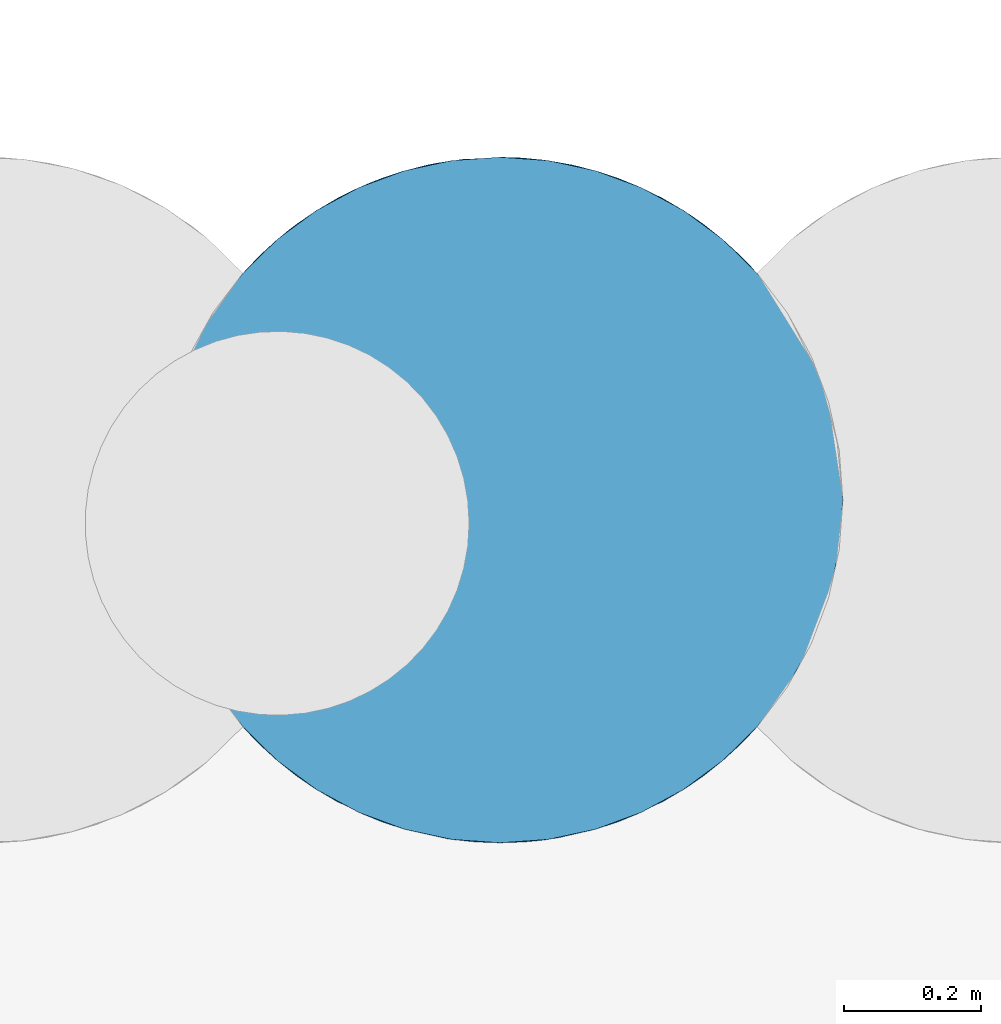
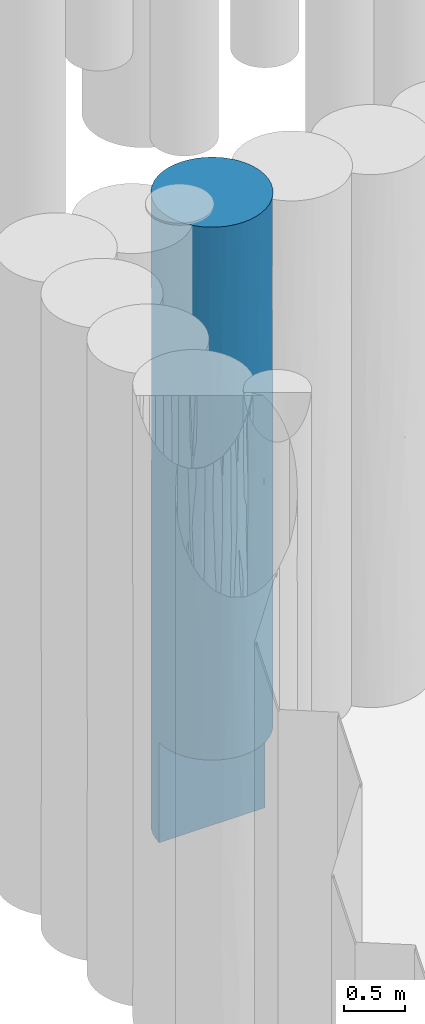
# One storey, part 81 of 104: 1 pile.
"""IFC2X3 building model written with IfcOpenShell, lengths in millimetres."""

from ifc_helpers import new_model, entity, si_unit, converted_unit, derived_unit, direction, frame, origin, place, context, subcontext, project, spatial, faceted_brep, source, transform, mapped, material, element, save


model = new_model("IFC2X3")

# Units and contexts
model_context = context("Model", 3, precision=0.01, world=origin(), true_north=direction((6.12303176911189e-17, 1.0)))
body_context = subcontext(model_context, "Body", "Model", "MODEL_VIEW")
ifc_project = project(units=[si_unit("LENGTHUNIT", "METRE", prefix="MILLI"), si_unit("AREAUNIT", "SQUARE_METRE", prefix="MILLI"), si_unit("VOLUMEUNIT", "CUBIC_METRE"), converted_unit("PLANEANGLEUNIT", "DEGREE", entity("IfcRatioMeasure", 0.0174532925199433), si_unit("PLANEANGLEUNIT", "RADIAN"), dimensions=[0, 0, 0, 0, 0, 0, 0]), si_unit("MASSUNIT", "GRAM", prefix="KILO"), derived_unit("MASSDENSITYUNIT", [(si_unit("MASSUNIT", "GRAM", prefix="KILO"), 1), (si_unit("LENGTHUNIT", "METRE"), -3)]), derived_unit("MOMENTOFINERTIAUNIT", [(si_unit("LENGTHUNIT", "METRE"), 4)]), si_unit("TIMEUNIT", "SECOND"), si_unit("FREQUENCYUNIT", "HERTZ"), si_unit("THERMODYNAMICTEMPERATUREUNIT", "DEGREE_CELSIUS"), derived_unit("THERMALTRANSMITTANCEUNIT", [(si_unit("MASSUNIT", "GRAM", prefix="KILO"), 1), (si_unit("THERMODYNAMICTEMPERATUREUNIT", "KELVIN"), -1), (si_unit("TIMEUNIT", "SECOND"), -3)]), derived_unit("VOLUMETRICFLOWRATEUNIT", [(si_unit("LENGTHUNIT", "METRE"), 3), (si_unit("TIMEUNIT", "SECOND"), -1)]), si_unit("ELECTRICCURRENTUNIT", "AMPERE"), si_unit("ELECTRICVOLTAGEUNIT", "VOLT"), si_unit("POWERUNIT", "WATT"), si_unit("FORCEUNIT", "NEWTON", prefix="KILO"), si_unit("ILLUMINANCEUNIT", "LUX"), si_unit("LUMINOUSFLUXUNIT", "LUMEN"), si_unit("LUMINOUSINTENSITYUNIT", "CANDELA"), derived_unit("USERDEFINED", [(si_unit("MASSUNIT", "GRAM", prefix="KILO"), -1), (si_unit("LENGTHUNIT", "METRE"), -2), (si_unit("TIMEUNIT", "SECOND"), 3), (si_unit("LUMINOUSFLUXUNIT", "LUMEN"), 1)]), derived_unit("LINEARVELOCITYUNIT", [(si_unit("LENGTHUNIT", "METRE"), 1), (si_unit("TIMEUNIT", "SECOND"), -1)]), si_unit("PRESSUREUNIT", "PASCAL"), derived_unit("USERDEFINED", [(si_unit("LENGTHUNIT", "METRE"), -2), (si_unit("MASSUNIT", "GRAM", prefix="KILO"), 1), (si_unit("TIMEUNIT", "SECOND"), -2)]), derived_unit("LINEARFORCEUNIT", [(si_unit("MASSUNIT", "GRAM", prefix="KILO"), 1), (si_unit("LENGTHUNIT", "METRE"), 1), (si_unit("TIMEUNIT", "SECOND"), -2), (si_unit("LENGTHUNIT", "METRE"), -1)]), derived_unit("PLANARFORCEUNIT", [(si_unit("MASSUNIT", "GRAM", prefix="KILO"), 1), (si_unit("LENGTHUNIT", "METRE"), 1), (si_unit("TIMEUNIT", "SECOND"), -2), (si_unit("LENGTHUNIT", "METRE"), -2)])], contexts=[model_context])

# Site, building, storey
site_placement = place(None, origin())
site = spatial("IfcSite", under=ifc_project, at=site_placement, Name="Theater aan de Parade", CompositionType="ELEMENT")
building_placement = place(site_placement, origin())
building = spatial("IfcBuilding", under=site, at=building_placement, Name="Theater aan de Parade", CompositionType="ELEMENT")
storey_placement = place(building_placement, frame((0.0, 0.0, -5520.0)))
storey = spatial("IfcBuildingStorey", under=building, at=storey_placement, Name="-2 kelder", CompositionType="ELEMENT", Elevation=-5520.0)

# Pile
ifc_material = material(Name="00_PBT_MAT_grout")
shared_shape = source(origin(), body_context, "Body", "Brep", [
    faceted_brep([(876.579981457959, 832.321622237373, 0.0), (920.315634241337, 774.859354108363, 0.0), (955.309868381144, 711.69778351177, 0.0), (980.842385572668, 644.151241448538, 0.0), (996.379070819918, 573.629935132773, 0.0), (1001.59527223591, 501.595272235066, 0.0), (1.5952722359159, 501.59527223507, 0.0), (6.81137998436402, 573.629291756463, 0.0), (22.349299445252, 644.155075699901, 0.0), (47.8844394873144, 711.705910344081, 0.0), (82.8830970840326, 774.871898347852, 0.0), (126.625846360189, 832.344511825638, 0.0), (176.945912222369, 881.862011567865, 0.0), (233.75028262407, 923.802640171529, 0.0), (295.894734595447, 957.322481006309, 0.0), (362.140178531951, 981.753867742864, 0.0), (431.165976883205, 996.610134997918, 0.0), (501.596191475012, 1001.59527223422, 0.0), (572.026924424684, 996.609799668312, 0.0), (641.054213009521, 981.752750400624, 0.0), (707.301927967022, 957.31971944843, 0.0), (769.44912927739, 923.797014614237, 0.0), (826.255002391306, 881.853157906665, 0.0), (505.767945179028, 1001.57786073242, 5382.91369215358), (606.803152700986, 990.401268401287, 5318.51992689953), (536.899669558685, 1000.3473143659, 4489.82006157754), (738.968042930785, 941.656822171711, 4874.79178989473), (825.621930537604, 882.392757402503, 5096.92066503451), (852.300933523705, 857.973637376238, 4162.67275115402), (798.593435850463, 903.829147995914, 886.300630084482), (899.493836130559, 804.376930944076, 1281.2877992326), (969.297123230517, 678.386048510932, 1281.2961646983), (1001.59527223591, 501.595272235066, 1000.0), (996.379070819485, 573.629935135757, 6320.0), (1001.59527223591, 501.59527223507, 6320.0), (1001.59527223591, 501.595272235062, 5539.2311470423), (1001.59527223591, 501.59527223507, 4758.46227402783), (994.752446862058, 584.033134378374, 1549.23112811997), (1001.59527223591, 501.595272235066, 2098.46227402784), (1001.59527223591, 501.595272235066, 1780.76885295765), (565.550315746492, 997.488156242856, 3449.19257381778), (529.169815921, 1000.83433775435, 2672.94077529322), (449.743121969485, 998.899358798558, 3572.95863106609), (431.16597719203, 996.610135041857, 6320.0), (396.390513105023, 990.401940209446, 5019.99634000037), (362.14017904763, 981.753867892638, 6320.0), (536.899669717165, 1000.34731435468, 886.293567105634), (396.390512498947, 990.401940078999, 1347.03118009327), (674.609910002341, 970.707130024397, 3160.0), (734.717654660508, 943.92315380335, 3911.20658875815), (778.79340587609, 917.721688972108, 2912.21735107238), (899.493835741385, 804.376931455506, 5166.9159928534), (674.609910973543, 970.707129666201, 1347.04994799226), (176.945912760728, 881.862012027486, 6320.0), (233.750283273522, 923.802640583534, 6320.0), (204.606817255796, 903.836316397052, 5407.98119204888), (264.230075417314, 941.660907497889, 1001.48462008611), (306.205735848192, 961.837522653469, 2005.68165294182), (867.648950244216, 842.18990639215, 2569.0136487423), (798.593435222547, 903.829148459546, 1830.20318346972), (648.053090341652, 979.664417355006, 4342.8001010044), (40.3510914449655, 694.607721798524, 5507.02367642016), (33.8957115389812, 678.392107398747, 4691.74032688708), (13.3053828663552, 609.173076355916, 5404.28278265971), (914.042137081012, 784.239188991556, 3465.35564142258), (938.954431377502, 743.911111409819, 2426.27080083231), (969.297122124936, 678.386051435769, 4353.80283951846), (969.297122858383, 678.386049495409, 5364.93969973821), (991.945435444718, 599.353737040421, 4859.37128120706), (1.5952722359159, 501.59527223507, 6320.0), (6.81137998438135, 573.629291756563, 6320.0), (876.595272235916, 832.314186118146, 6320.0), (707.30192777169, 957.319719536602, 6320.0), (769.449129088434, 923.797014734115, 6320.0), (955.309868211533, 711.697783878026, 6320.0), (980.842385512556, 644.151241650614, 6320.0), (920.315633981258, 774.859354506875, 6320.0), (192.454499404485, 894.573620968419, 3118.25983968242), (103.705863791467, 804.388962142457, 3683.83727830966), (170.062999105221, 875.876385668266, 4385.93371237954), (615.750115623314, 988.389552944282, 2412.80574800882), (826.255002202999, 881.853158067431, 6320.0), (9.5425294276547, 590.387717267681, 1549.23114545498), (19.1756528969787, 633.015631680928, 2647.69343743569), (64.2419118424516, 743.921577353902, 1886.80412871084), (33.8957114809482, 678.392107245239, 1031.06480452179), (572.026924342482, 996.609799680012, 6320.0), (641.054212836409, 981.752750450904, 6320.0), (150.899907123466, 857.983769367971, 1001.49914637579), (536.899669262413, 1000.34731438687, 1830.17993802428), (911.630675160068, 787.726305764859, 4326.2243314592), (710.611247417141, 955.811434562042, 2253.52497223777), (125.970359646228, 831.604249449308, 1931.73263109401), (90.395268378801, 786.050113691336, 2739.57598498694), (994.456145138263, 585.786482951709, 3851.2604916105), (126.605366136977, 832.325631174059, 6320.0), (1.5952722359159, 501.59527223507, 1000.0), (81.0732233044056, 772.07855519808, 967.239877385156), (501.596191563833, 1001.59527223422, 6320.0), (204.60681639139, 903.836315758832, 1830.17932841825), (103.705863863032, 804.388962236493, 5022.82360748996), (987.128071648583, 621.00172388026, 2647.69338846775), (1001.59527223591, 501.595272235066, 3196.9245480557), (1001.59527223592, 501.595272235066, 2561.53770591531), (264.230076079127, 941.660907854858, 4689.96526702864), (281.302649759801, 950.450661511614, 5502.16992542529), (22.3492994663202, 644.155075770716, 6320.0), (9.62160997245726, 590.82483930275, 4578.19709384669), (1.5952722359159, 501.59527223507, 4758.45410358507), (46.3450915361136, 708.349408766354, 3415.89896222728), (82.8830972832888, 774.871898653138, 6320.0), (295.894735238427, 957.322481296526, 6320.0), (47.8844395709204, 711.705910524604, 6320.0), (360.659098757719, 981.321230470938, 4094.94716932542), (12.0310218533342, 603.216356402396, 3655.04011546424), (409.469337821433, 993.03480280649, 2413.70045088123), (1.5952722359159, 501.59527223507, 5539.23543392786), (1.59527223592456, 501.59527223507, 2098.47265322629), (1.5952722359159, 501.59527223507, 3196.90820717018), (1.5952722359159, 501.59527223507, 1780.76456607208), (328.585659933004, 970.708983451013, 3160.0), (971.530380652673, 672.361175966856, 3430.41213963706), (1001.59527223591, 501.595272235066, 4123.07541183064), (103.705864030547, 198.801582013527, 1912.28195474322), (82.8830972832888, 228.318645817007, 1000.0), (126.605366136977, 170.864913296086, 1000.0), (11.952249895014, 400.35441747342, 1904.7576676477), (9.26665931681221, 414.345418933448, 2795.48116401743), (295.894735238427, 45.8680631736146, 1000.0), (362.140179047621, 21.4366765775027, 1000.0), (328.585661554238, 32.481560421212, 2389.4404015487), (362.140179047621, 21.4366765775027, 6320.0), (466.292978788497, 2.84308118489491, 5378.67247013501), (431.165977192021, 6.58040942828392, 6320.0), (585.680934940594, 8.71638109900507, 3096.59253510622), (536.899670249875, 2.84323015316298, 2089.86406556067), (674.609911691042, 32.4834150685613, 2389.44616894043), (47.8844395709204, 291.484633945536, 1000.0), (204.606817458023, 99.3542279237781, 1910.82197268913), (176.945912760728, 121.328532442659, 1000.0), (996.379070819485, 429.560609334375, 6320.0), (996.379070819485, 429.560609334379, 1000.0), (150.899907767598, 145.206774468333, 2627.24285140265), (8.92165890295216, 416.315082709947, 5148.84671875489), (6.81137998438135, 429.561252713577, 6320.0), (798.593436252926, 99.3613967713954, 5409.16103987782), (774.63065400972, 82.7257456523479, 4513.56607829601), (852.300934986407, 145.216908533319, 4692.73185603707), (466.292978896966, 2.84308117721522, 3023.45462893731), (428.669383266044, 6.9420455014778, 2088.9298529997), (988.649679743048, 388.555437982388, 3393.35222772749), (994.269521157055, 416.318754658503, 2171.15327926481), (82.255094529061, 229.283290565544, 4861.06017695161), (126.605366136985, 170.864913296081, 6320.0), (82.8830972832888, 228.318645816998, 6320.0), (233.750283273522, 79.3879038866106, 1000.0), (14.5430320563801, 388.54610003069, 3926.55937207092), (22.3492994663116, 359.035468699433, 1000.0), (501.596191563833, 1.5952722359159, 1000.0), (955.309868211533, 291.492760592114, 6320.0), (991.238555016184, 400.355677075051, 5415.25030213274), (980.842385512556, 359.039302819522, 6320.0), (6.81137998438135, 429.561252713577, 1000.0), (33.8957116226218, 324.798436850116, 5046.83991630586), (64.2419122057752, 259.268966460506, 3911.00024643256), (22.3492994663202, 359.035468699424, 6320.0), (899.493836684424, 198.81361425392, 5407.704178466), (826.255002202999, 121.337386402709, 1000.0), (852.300935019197, 145.216908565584, 2544.64784724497), (772.434150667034, 81.3021579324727, 2058.96270123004), (47.8844395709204, 291.484633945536, 6320.0), (295.894735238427, 45.8680631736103, 6320.0), (230.76339103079, 81.2976489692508, 5261.05887237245), (328.585661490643, 32.4815604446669, 4930.5595985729), (150.899907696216, 145.206774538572, 4775.31033826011), (176.945912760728, 121.328532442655, 6320.0), (969.297123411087, 324.804496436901, 2273.11211037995), (920.941233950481, 229.292197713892, 2458.90250760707), (955.309868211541, 291.492760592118, 1000.0), (233.750283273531, 79.3879038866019, 6320.0), (572.026924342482, 6.58074479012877, 1000.0), (876.595272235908, 170.87635835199, 1000.0), (969.297123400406, 324.804496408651, 4807.65108384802), (536.899670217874, 2.84323015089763, 4623.76614534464), (424.607769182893, 7.5579008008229, 4390.31164837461), (132.743177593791, 164.033230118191, 3701.27659464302), (641.054212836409, 21.4377940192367, 1000.0), (707.30192777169, 45.8708249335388, 1000.0), (362.747706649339, 21.2606456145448, 3359.53368305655), (639.67292230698, 21.0387588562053, 4013.21651259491), (738.968043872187, 61.5337228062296, 3660.0), (559.822729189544, 4.99728265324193, 5462.4569585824), (769.449129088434, 79.3935297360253, 1000.0), (920.315633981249, 228.331189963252, 1000.0), (264.230076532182, 61.5296363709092, 3660.0), (980.842385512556, 359.039302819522, 1000.0), (33.8957116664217, 324.798436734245, 2512.31991229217), (938.954432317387, 259.279434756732, 3408.92084500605), (431.16597719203, 6.58040942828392, 1000.0), (993.924896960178, 414.351128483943, 4524.56175537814), (228.571947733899, 82.7178865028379, 2806.41036580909), (501.596191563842, 1.5952722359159, 6320.0), (572.026924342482, 6.58074479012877, 6320.0), (641.054212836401, 21.4377940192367, 6320.0), (707.30192777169, 45.8708249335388, 6320.0), (674.609911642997, 32.4834150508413, 5005.81261726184), (826.255002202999, 121.337386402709, 6320.0), (769.449129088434, 79.3935297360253, 6320.0), (921.65753888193, 230.398494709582, 4422.83230954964), (870.455786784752, 164.042430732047, 3618.68985171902), (876.595272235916, 170.876358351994, 6320.0), (920.315633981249, 228.331189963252, 6320.0), (81.5385124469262, 230.389965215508, 2897.19133344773)], [[[0, 1, 2, 3, 4, 5, 6, 7, 8, 9, 10, 11, 12, 13, 14, 15, 16, 17, 18, 19, 20, 21, 22]], [[23, 24, 25]], [[26, 27, 28]], [[0, 29, 30]], [[2, 30, 31]], [[5, 4, 32]], [[33, 34, 35, 36]], [[37, 38, 39, 32]], [[3, 31, 37]], [[40, 41, 42]], [[30, 2, 1]], [[43, 44, 45]], [[46, 19, 18]], [[46, 16, 47]], [[48, 49, 50]], [[51, 28, 27]], [[20, 19, 52]], [[53, 54, 55]], [[56, 57, 47]], [[52, 29, 20]], [[21, 29, 22]], [[50, 58, 59]], [[60, 24, 26]], [[46, 18, 17]], [[12, 56, 13]], [[3, 2, 31]], [[52, 19, 46]], [[61, 62, 63]], [[64, 65, 58]], [[66, 67, 68]], [[63, 69, 70]], [[51, 27, 71]], [[68, 33, 36]], [[26, 72, 73]], [[67, 74, 75]], [[67, 51, 76]], [[77, 78, 79]], [[41, 40, 80]], [[76, 51, 71]], [[27, 73, 81]], [[82, 83, 84]], [[72, 26, 24]], [[85, 9, 8]], [[86, 87, 24]], [[88, 12, 11]], [[47, 16, 15]], [[65, 31, 30]], [[14, 13, 56]], [[29, 0, 22]], [[37, 4, 3]], [[56, 12, 88]], [[89, 46, 47]], [[28, 90, 64]], [[67, 76, 74]], [[91, 48, 50]], [[30, 1, 0]], [[58, 30, 59]], [[92, 93, 77]], [[66, 68, 94]], [[95, 53, 55]], [[7, 96, 82]], [[97, 10, 9]], [[44, 25, 42]], [[23, 43, 98]], [[85, 84, 97]], [[56, 88, 99]], [[62, 100, 78]], [[101, 102, 103, 38]], [[96, 7, 6]], [[104, 55, 105]], [[44, 105, 45]], [[88, 92, 99]], [[63, 70, 106]], [[54, 105, 55]], [[63, 107, 108]], [[109, 93, 83]], [[61, 110, 100]], [[98, 86, 23]], [[100, 55, 79]], [[85, 97, 9]], [[111, 105, 54]], [[110, 95, 100]], [[24, 60, 25]], [[112, 61, 106]], [[100, 62, 61]], [[15, 14, 56]], [[52, 59, 29]], [[44, 42, 113]], [[91, 80, 48]], [[109, 83, 114]], [[48, 60, 49]], [[115, 47, 57]], [[23, 86, 24]], [[72, 24, 87]], [[101, 31, 65]], [[57, 56, 99]], [[15, 56, 47]], [[97, 11, 10]], [[88, 97, 92]], [[7, 85, 8]], [[82, 84, 85]], [[67, 75, 33]], [[67, 66, 90]], [[79, 55, 104]], [[95, 55, 100]], [[46, 17, 16]], [[52, 46, 89]], [[29, 21, 20]], [[30, 29, 59]], [[107, 63, 62]], [[63, 108, 116, 69]], [[117, 118, 83]], [[82, 96, 119, 117]], [[93, 109, 78]], [[77, 104, 120]], [[78, 100, 79]], [[104, 77, 79]], [[57, 77, 120]], [[77, 57, 99]], [[115, 57, 120]], [[49, 60, 26]], [[40, 60, 48]], [[94, 101, 121]], [[101, 38, 37]], [[65, 64, 121]], [[42, 115, 120]], [[89, 47, 115]], [[42, 120, 113]], [[42, 25, 40]], [[93, 92, 84]], [[77, 99, 92]], [[83, 93, 84]], [[77, 93, 78]], [[114, 83, 118]], [[62, 78, 109]], [[108, 114, 118]], [[62, 109, 114]], [[26, 28, 49]], [[59, 52, 91]], [[49, 28, 50]], [[28, 64, 58]], [[28, 58, 50]], [[30, 58, 65]], [[90, 28, 51]], [[121, 66, 94]], [[33, 68, 67]], [[94, 36, 122, 102]], [[36, 94, 68]], [[101, 94, 102]], [[65, 121, 101]], [[64, 66, 121]], [[83, 82, 117]], [[7, 82, 85]], [[25, 44, 23]], [[43, 23, 44]], [[92, 97, 84]], [[11, 97, 88]], [[60, 40, 25]], [[40, 48, 80]], [[59, 91, 50]], [[80, 52, 89]], [[52, 80, 91]], [[80, 89, 41]], [[89, 115, 41]], [[42, 41, 115]], [[62, 114, 107]], [[114, 108, 107]], [[45, 105, 111]], [[44, 104, 105]], [[106, 61, 63]], [[61, 112, 110]], [[4, 37, 32]], [[101, 37, 31]], [[73, 27, 26]], [[71, 27, 81]], [[120, 104, 113]], [[104, 44, 113]], [[67, 90, 51]], [[66, 64, 90]], [[123, 124, 125]], [[126, 127, 119]], [[128, 129, 130]], [[131, 132, 133]], [[134, 135, 136]], [[123, 137, 124]], [[138, 125, 139]], [[35, 34, 140]], [[141, 32, 39]], [[138, 142, 123]], [[143, 144, 116]], [[145, 146, 147]], [[135, 148, 149]], [[138, 128, 130]], [[150, 103, 102, 122]], [[151, 141, 39]], [[152, 153, 154]], [[155, 138, 139]], [[156, 108, 118]], [[157, 137, 126]], [[158, 135, 149]], [[159, 160, 161]], [[126, 119, 162]], [[163, 164, 152]], [[123, 125, 138]], [[156, 164, 163]], [[165, 144, 143]], [[166, 145, 147]], [[167, 168, 169]], [[170, 165, 163]], [[171, 172, 173]], [[170, 163, 152]], [[154, 170, 152]], [[174, 175, 153]], [[176, 177, 178]], [[174, 172, 175]], [[179, 172, 171]], [[135, 158, 180]], [[168, 167, 181]], [[173, 131, 171]], [[159, 182, 160]], [[183, 132, 184]], [[174, 152, 185]], [[135, 186, 136]], [[184, 132, 173]], [[169, 136, 187]], [[130, 149, 188]], [[187, 136, 186]], [[146, 189, 190]], [[191, 132, 183]], [[169, 187, 192]], [[193, 177, 181]], [[194, 130, 188]], [[141, 151, 195]], [[156, 196, 164]], [[136, 169, 190]], [[160, 35, 140]], [[176, 178, 195]], [[186, 135, 180]], [[150, 182, 197]], [[178, 177, 193]], [[137, 196, 126]], [[119, 96, 162]], [[144, 69, 116]], [[149, 129, 198]], [[199, 35, 160]], [[200, 142, 138]], [[133, 132, 201]], [[134, 148, 135]], [[132, 131, 173]], [[191, 202, 201]], [[202, 191, 203]], [[185, 194, 174]], [[204, 205, 145]], [[205, 204, 203]], [[206, 207, 145]], [[197, 176, 150]], [[182, 166, 208]], [[209, 190, 168]], [[210, 206, 145]], [[145, 166, 210]], [[173, 172, 194]], [[166, 211, 210]], [[176, 197, 177]], [[166, 159, 211]], [[196, 123, 212]], [[168, 177, 209]], [[148, 188, 149]], [[189, 183, 134]], [[201, 132, 191]], [[128, 138, 155]], [[200, 130, 194]], [[212, 123, 142]], [[137, 123, 196]], [[204, 145, 207]], [[205, 189, 146]], [[208, 166, 147]], [[159, 166, 182]], [[185, 212, 142]], [[164, 196, 212]], [[209, 208, 147]], [[197, 182, 208]], [[188, 173, 194]], [[148, 183, 184]], [[163, 143, 156]], [[156, 118, 127]], [[176, 151, 150]], [[150, 122, 199]], [[190, 134, 136]], [[183, 148, 134]], [[130, 200, 138]], [[185, 200, 194]], [[205, 146, 145]], [[209, 146, 190]], [[157, 126, 162]], [[127, 126, 196]], [[156, 127, 196]], [[127, 118, 117, 119]], [[161, 160, 140]], [[199, 160, 182]], [[150, 199, 182]], [[199, 122, 36, 35]], [[129, 149, 130]], [[158, 149, 198]], [[183, 205, 191]], [[203, 191, 205]], [[212, 185, 164]], [[185, 142, 200]], [[208, 209, 197]], [[209, 147, 146]], [[148, 184, 188]], [[173, 188, 184]], [[175, 172, 179]], [[194, 172, 174]], [[167, 169, 192]], [[190, 169, 168]], [[185, 152, 164]], [[152, 174, 153]], [[143, 116, 108]], [[156, 143, 108]], [[143, 163, 165]], [[209, 177, 197]], [[177, 168, 181]], [[151, 39, 38, 103]], [[150, 151, 103]], [[151, 176, 195]], [[183, 189, 205]], [[134, 190, 189]], [[72, 87, 86, 98, 43, 45, 111, 54, 53, 95, 110, 112, 106, 70, 69, 144, 165, 170, 154, 153, 175, 179, 171, 131, 133, 201, 202, 203, 204, 207, 206, 210, 211, 159, 161, 140, 34, 33, 75, 74, 76, 71, 81, 73]], [[96, 32, 141, 195, 178, 193, 181, 167, 192, 187, 186, 180, 158, 198, 129, 128, 155, 139, 125, 124, 137, 157, 162]], [[96, 6, 5, 32]]]),
])
pile_placement = place(storey_placement, frame((74798.4047277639, 20202.3807468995, -3840.0)))
element("IfcPile", 1, at=pile_placement, inside=storey, material=ifc_material, Name="17_PBT_SFO_grondkering_rond:Ø1000 (grondkering)", ObjectType="17_PBT_SFO_grondkering_rond:Ø1000 (grondkering)", PredefinedType="NOTDEFINED", context=body_context, shape_type="MappedRepresentation", body=[
    mapped(shared_shape, transform((0.0, 0.0, 0.0), scale=1.0)),
])

save(model, "model.ifc")
